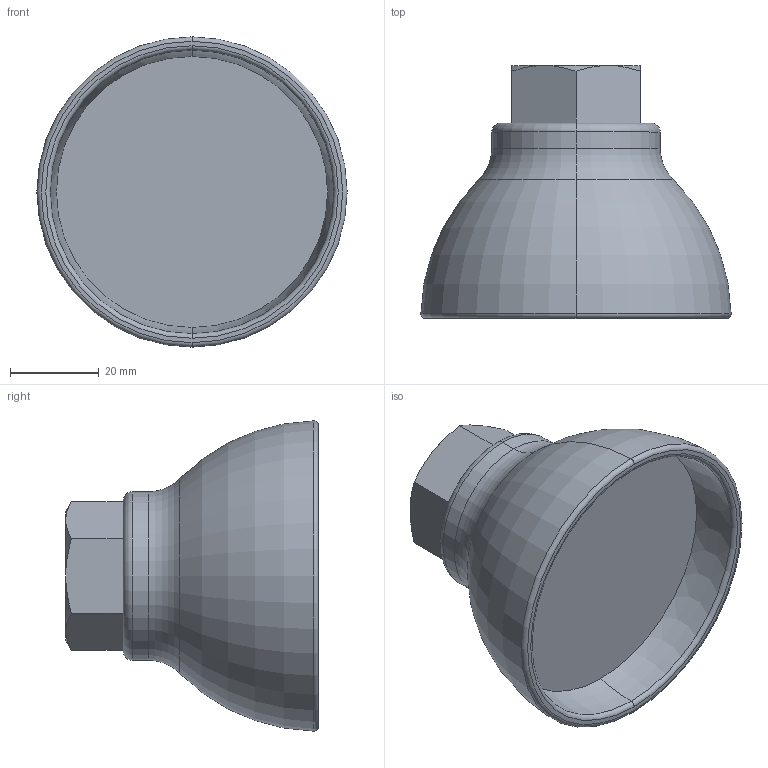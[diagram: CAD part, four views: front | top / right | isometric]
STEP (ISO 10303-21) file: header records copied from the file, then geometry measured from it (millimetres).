
FILE_DESCRIPTION (( 'STEP AP203' ), '1' );
FILE_NAME ('MS-2 15A.STEP', '2026-01-23T00:46:13', ( '' ), ( '' ), 'SwSTEP 2.0', 'SolidWorks 2024', '' );
FILE_SCHEMA (( 'CONFIG_CONTROL_DESIGN' ));
Length unit declared in the file: millimetre
Products named in the file (1): MS-2 15A
Bounding box: 69.98 x 57 x 69.98 mm (x, y, z)
Volume: 82223.6 mm3; surface area: 17007.6 mm2
Topology: 1 solids, 1 shells, 36 faces, 74 edges, 43 vertices
Faces by surface type: torus 12, cone 11, plane 11, cylinder 2
Entity records: 1070 total; most frequent: CARTESIAN_POINT 222, DIRECTION 179, ORIENTED_EDGE 148, AXIS2_PLACEMENT_3D 80, EDGE_CURVE 74, VERTEX_POINT 43, CIRCLE 43, EDGE_LOOP 39
